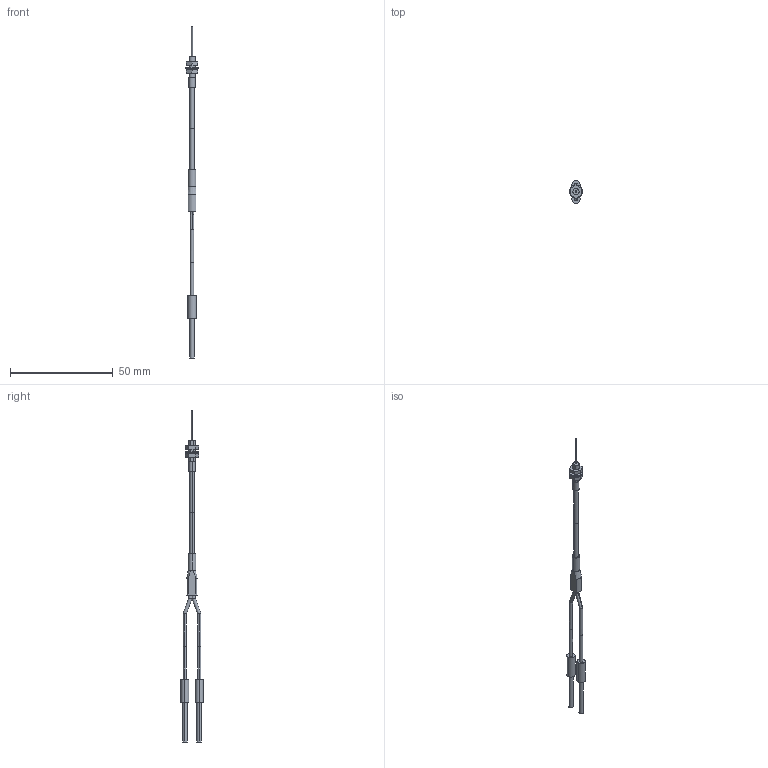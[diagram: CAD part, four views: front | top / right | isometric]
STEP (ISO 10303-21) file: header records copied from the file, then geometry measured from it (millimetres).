
FILE_DESCRIPTION (( 'STEP AP203' ), '1' );
FILE_NAME ('FD-EN500S1.STEP', '2005-09-04T09:25:09', ( '川島良英' ), ( ' ' ), 'SwSTEP 2.0', 'SolidWorks 2004251', '' );
FILE_SCHEMA (( 'CONFIG_CONTROL_DESIGN' ));
Length unit declared in the file: millimetre
Products named in the file (1): FD-EN500S1
Bounding box: 6.5 x 11 x 161.5 mm (x, y, z)
Volume: 1200.4 mm3; surface area: 2017.8 mm2
Topology: 9 solids, 9 shells, 94 faces, 190 edges, 124 vertices
Faces by surface type: cylinder 49, plane 43, cone 2
Entity records: 2589 total; most frequent: CARTESIAN_POINT 497, DIRECTION 446, ORIENTED_EDGE 380, EDGE_CURVE 190, AXIS2_PLACEMENT_3D 177, VERTEX_POINT 124, EDGE_LOOP 110, ADVANCED_FACE 94
